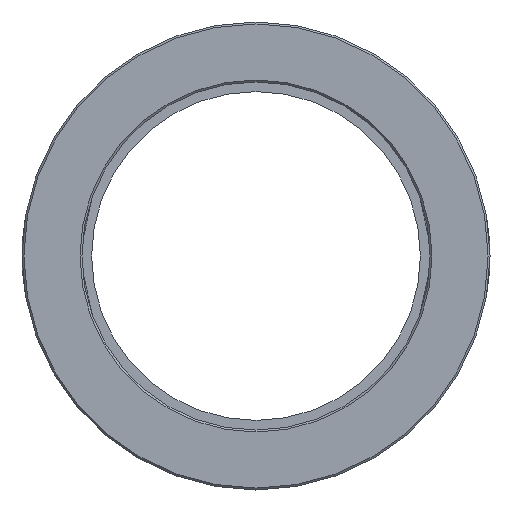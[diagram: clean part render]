
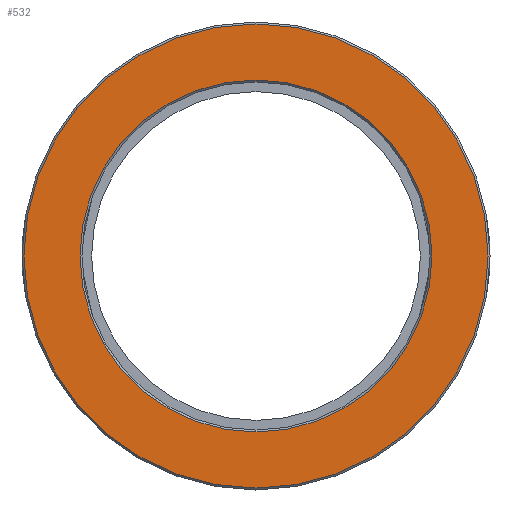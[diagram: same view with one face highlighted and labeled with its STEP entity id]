
A CAD part, left-side view. The second image highlights one B-rep face of the part: STEP entity #532.
In plain terms, the highlighted planar face has unit normal (-1, 0, 0).
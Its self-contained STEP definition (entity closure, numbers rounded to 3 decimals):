
#50 = FACE_BOUND ( 'NONE', #483, .T. ) ;
#85 = DIRECTION ( 'NONE',  ( 0., 0., -1. ) ) ;
#193 = CIRCLE ( 'NONE', #1492, 45.5 ) ;
#200 = DIRECTION ( 'NONE',  ( 0., 0., -1. ) ) ;
#204 = CARTESIAN_POINT ( 'NONE',  ( 0., 0., 0. ) ) ;
#221 = DIRECTION ( 'NONE',  ( 1., 0., 0. ) ) ;
#252 = VERTEX_POINT ( 'NONE', #331 ) ;
#271 = EDGE_CURVE ( 'NONE', #834, #481, #1499, .T. ) ;
#276 = EDGE_CURVE ( 'NONE', #252, #1191, #636, .T. ) ;
#322 = DIRECTION ( 'NONE',  ( -1., 0., 0. ) ) ;
#331 = CARTESIAN_POINT ( 'NONE',  ( 0., 0., -45.5 ) ) ;
#353 = EDGE_CURVE ( 'NONE', #1191, #252, #193, .T. ) ;
#452 = CARTESIAN_POINT ( 'NONE',  ( 0., 0., 0. ) ) ;
#468 = CARTESIAN_POINT ( 'NONE',  ( 0., 45., 0. ) ) ;
#481 = VERTEX_POINT ( 'NONE', #1387 ) ;
#483 = EDGE_LOOP ( 'NONE', ( #1445, #836 ) ) ;
#492 = CARTESIAN_POINT ( 'NONE',  ( 0., 0., 60. ) ) ;
#532 = ADVANCED_FACE ( 'NONE', ( #50, #1006 ), #1541, .F. ) ;
#636 = CIRCLE ( 'NONE', #1415, 45.5 ) ;
#683 = DIRECTION ( 'NONE',  ( 0., 0., -1. ) ) ;
#716 = ORIENTED_EDGE ( 'NONE', *, *, #956, .T. ) ;
#726 = AXIS2_PLACEMENT_3D ( 'NONE', #1044, #322, #200 ) ;
#804 = CARTESIAN_POINT ( 'NONE',  ( 0., 0., 0. ) ) ;
#834 = VERTEX_POINT ( 'NONE', #492 ) ;
#836 = ORIENTED_EDGE ( 'NONE', *, *, #276, .T. ) ;
#932 = DIRECTION ( 'NONE',  ( 1., 0., 0. ) ) ;
#951 = DIRECTION ( 'NONE',  ( 0., 0., -1. ) ) ;
#956 = EDGE_CURVE ( 'NONE', #481, #834, #1444, .T. ) ;
#1006 = FACE_OUTER_BOUND ( 'NONE', #1084, .T. ) ;
#1044 = CARTESIAN_POINT ( 'NONE',  ( 0., 0., 0. ) ) ;
#1084 = EDGE_LOOP ( 'NONE', ( #716, #1170 ) ) ;
#1161 = DIRECTION ( 'NONE',  ( 0., 0., -1. ) ) ;
#1170 = ORIENTED_EDGE ( 'NONE', *, *, #271, .T. ) ;
#1191 = VERTEX_POINT ( 'NONE', #1472 ) ;
#1226 = AXIS2_PLACEMENT_3D ( 'NONE', #468, #221, #951 ) ;
#1328 = AXIS2_PLACEMENT_3D ( 'NONE', #452, #1508, #1161 ) ;
#1387 = CARTESIAN_POINT ( 'NONE',  ( 0., 0., -60. ) ) ;
#1415 = AXIS2_PLACEMENT_3D ( 'NONE', #204, #932, #85 ) ;
#1444 = CIRCLE ( 'NONE', #726, 60. ) ;
#1445 = ORIENTED_EDGE ( 'NONE', *, *, #353, .T. ) ;
#1472 = CARTESIAN_POINT ( 'NONE',  ( 0., 0., 45.5 ) ) ;
#1492 = AXIS2_PLACEMENT_3D ( 'NONE', #804, #1501, #683 ) ;
#1499 = CIRCLE ( 'NONE', #1328, 60. ) ;
#1501 = DIRECTION ( 'NONE',  ( 1., 0., 0. ) ) ;
#1508 = DIRECTION ( 'NONE',  ( -1., 0., 0. ) ) ;
#1541 = PLANE ( 'NONE',  #1226 ) ;
